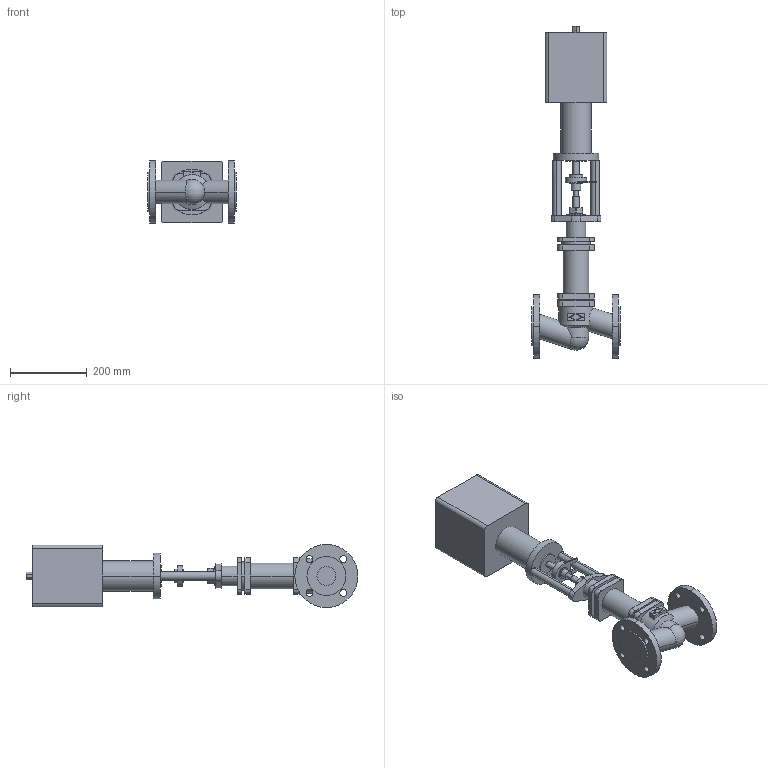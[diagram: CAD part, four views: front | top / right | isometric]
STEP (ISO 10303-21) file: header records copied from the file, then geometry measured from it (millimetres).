
FILE_DESCRIPTION( ( '' ), '1' );
FILE_NAME( 'F:/DE-SHS/TB/OR/04-Sonstiges/daten/files_3d/441-FR2.2/441-PN25-FR2_2/c000004559.stp', '2014-11-06T11:28:40', ( '' ), ( '' ), ' ', ' ', ' ' );
FILE_SCHEMA( ( 'CONFIG_CONTROL_DESIGN' ) );
Length unit declared in the file: millimetre
Products named in the file (2): 1; 2
Bounding box: 230 x 867.5 x 165 mm (x, y, z)
Volume: 8615536.6 mm3; surface area: 517862.4 mm2
Topology: 2 solids, 2 shells, 202 faces, 497 edges, 329 vertices
Faces by surface type: cylinder 102, plane 97, cone 2, sphere 1
Entity records: 6611 total; most frequent: CARTESIAN_POINT 1516, DIRECTION 1105, ORIENTED_EDGE 990, EDGE_CURVE 495, AXIS2_PLACEMENT_3D 420, VERTEX_POINT 329, LINE 265, VECTOR 265
